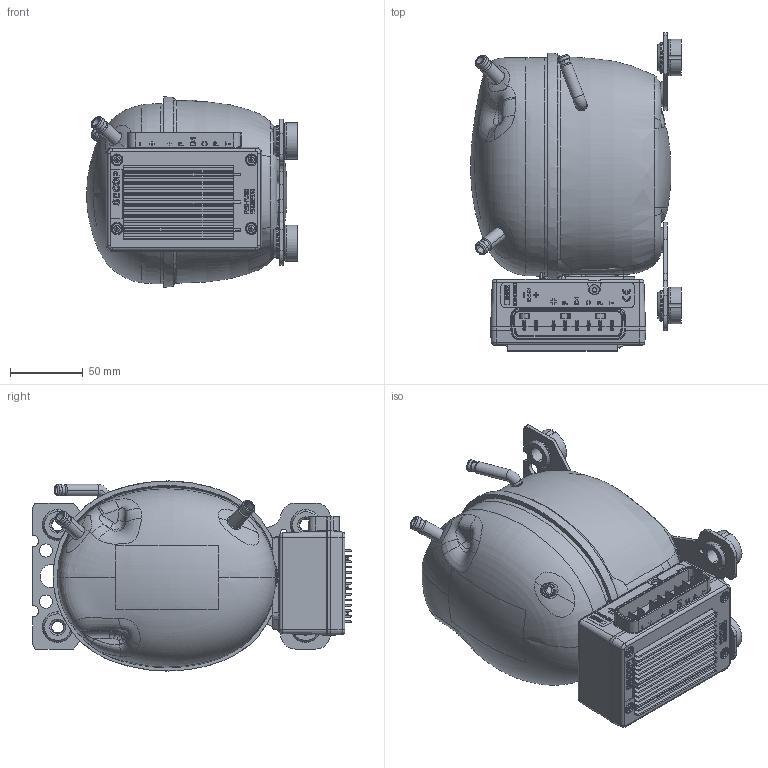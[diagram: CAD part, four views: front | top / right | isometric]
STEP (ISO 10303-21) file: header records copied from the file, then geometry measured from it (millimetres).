
FILE_DESCRIPTION((''),'2;1');
FILE_NAME('105B7122_ASM','2016-03-09T',('dehc5645'),(''),'CREO PARAMETRIC BY PTC INC, 2015380','CREO PARAMETRIC BY PTC INC, 2015380','');
FILE_SCHEMA(('CONFIG_CONTROL_DESIGN'));
Products named in the file (31): 105B4085; 105B4370; 105B4368; 105B4369; 105B4367; 640N2094; 105A0214; 101B0401; 117-3617_BODY; 117-3617_PINS; 117-3617_GLASS_FUSED; 117-3617_ASM; 101B6004; 101B0501; 102B1507; 101B0605; 101B0651; 101B6003; 101B0011_ASM; 102B1730BEND2; 101B0601; 101B0005_ASM; 101B0303_AF0; 101B0804_AF0; 101B0804; 101B0153_ASM; 101B1856_ASM; 101B1551; 101Z0200_ASM; 118-3661; 105B7122_ASM
Assembly tree (43 placements, depth 6):
  105B7122_ASM
    105B4085
    105B4370
    105B4368
    105B4369
    105B4367
    640N2094  x4
    105A0214
    101Z0200_ASM
      101B0005_ASM
        101B0011_ASM
          101B0401
          117-3617_ASM
            117-3617_BODY
            117-3617_PINS  x3
            117-3617_GLASS_FUSED  x3
          101B6004
          101B0501
          102B1507
          101B0605
          101B0651  x4
          101B6003
        102B1730BEND2
        101B0601
      101B0153_ASM
        101B0303_AF0
        101B0804_AF0
        101B0804
      101B1856_ASM
      101B1551
    118-3661  x4
Bounding box: 144.32 x 218.27 x 130.31 mm (x, y, z)
Volume: 368525.5 mm3; surface area: 331635.8 mm2
Topology: 36 solids, 37 shells, 6099 faces, 16295 edges, 10367 vertices
Faces by surface type: plane 3713, cylinder 926, bspline 695, cone 455, torus 209, sphere 59, extrusion 30, revolution 12
Entity records: 265810 total; most frequent: CARTESIAN_POINT 130873, ORIENTED_EDGE 29592, DIRECTION 24530, EDGE_CURVE 15043, VECTOR 11138, LINE 11108, VERTEX_POINT 9669, AXIS2_PLACEMENT_3D 6694
